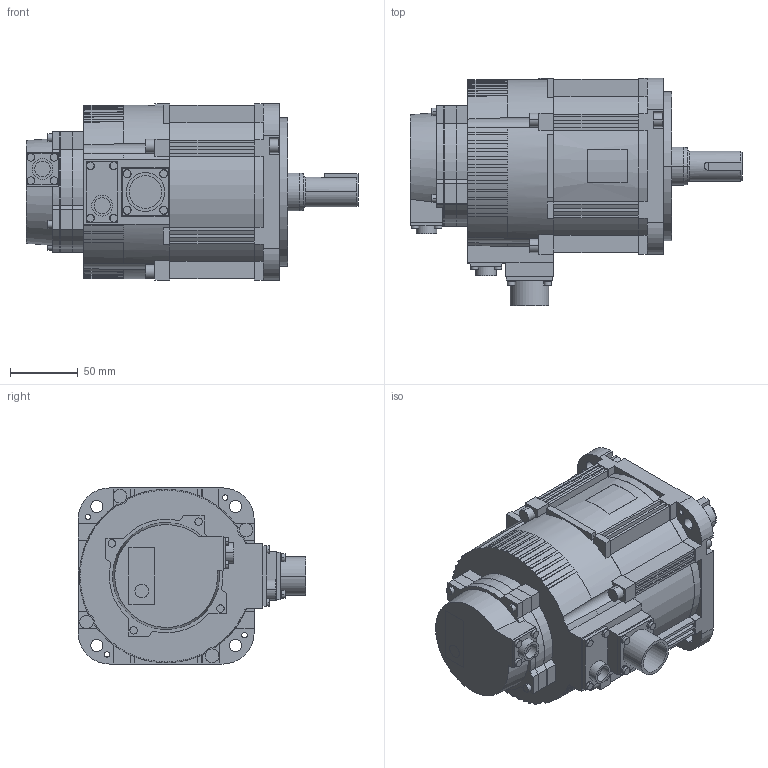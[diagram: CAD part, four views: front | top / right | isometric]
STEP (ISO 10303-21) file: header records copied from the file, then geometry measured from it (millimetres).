
FILE_DESCRIPTION( (''), '2;1');
FILE_NAME ('SGMXG-13AUA6CC2.stp','2022-03-02T11:31:39',(''),(''),'spGate 15.6.6','','');
FILE_SCHEMA (('AUTOMOTIVE_DESIGN'));
Length unit declared in the file: millimetre
Products named in the file (3): Assembly; SGMXG-13AUA6CC2-prt0; SGMXG-13AUA6CC2-prt1
Assembly tree (2 placements, depth 2):
  Assembly
    SGMXG-13AUA6CC2-prt0
    SGMXG-13AUA6CC2-prt1
Bounding box: 245.2 x 168.2 x 130 mm (x, y, z)
Volume: 2272326.5 mm3; surface area: 156143.4 mm2
Topology: 2 solids, 2 shells, 686 faces, 1852 edges, 1228 vertices
Faces by surface type: plane 438, cylinder 202, bspline 46
Entity records: 36446 total; most frequent: CARTESIAN_POINT 4505, ORIENTED_EDGE 3704, DIRECTION 3525, COLOUR_RGB 2540, PRESENTATION_STYLE_ASSIGNMENT 2540, STYLED_ITEM 2540, EDGE_CURVE 1852, DRAUGHTING_PRE_DEFINED_CURVE_FONT 1852
